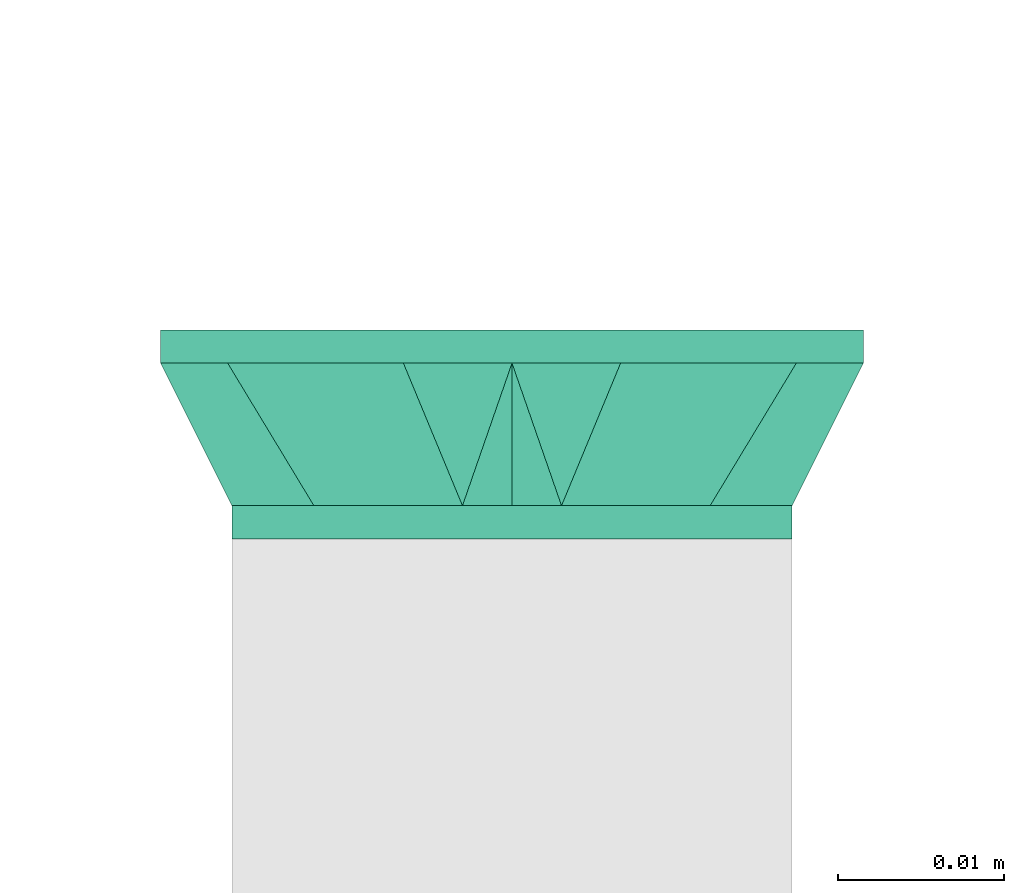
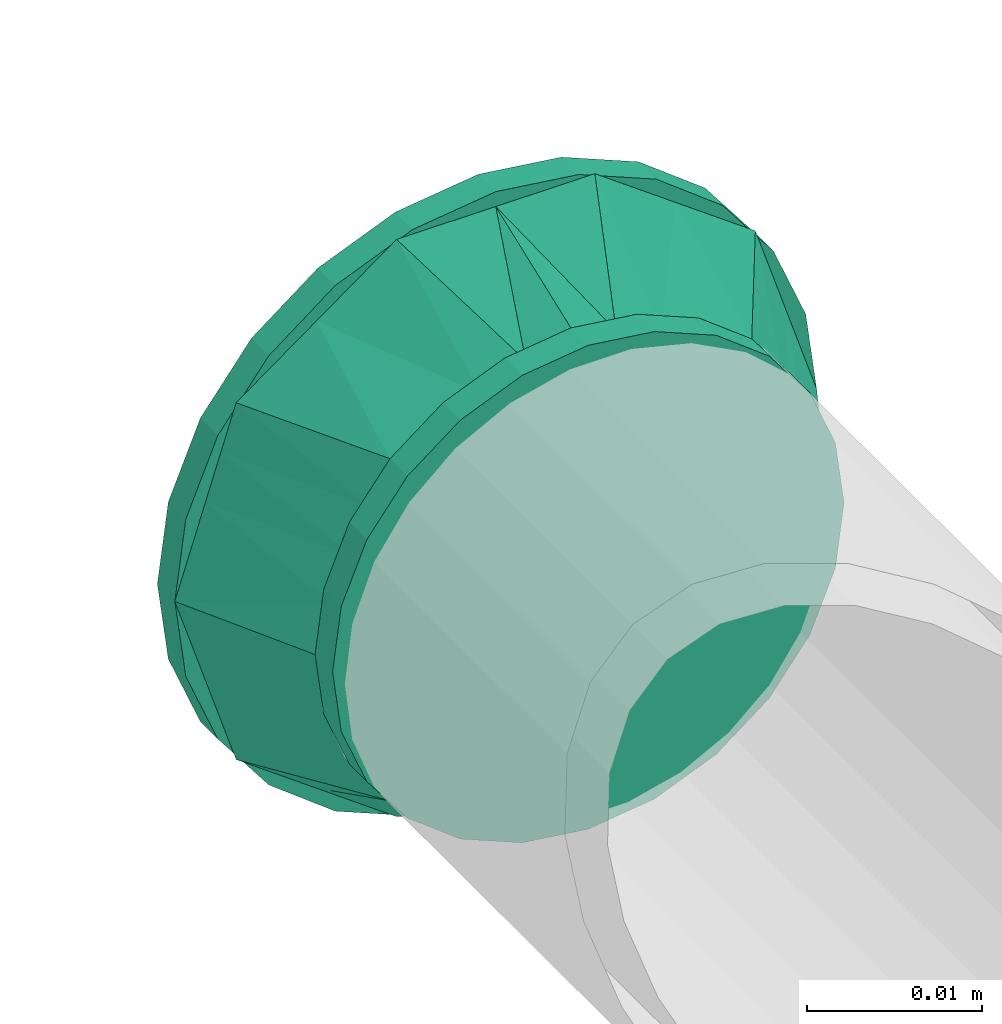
# One storey, part 32 of 32: 1 flow fitting.
"""IFC2X3 building model written with IfcOpenShell, lengths in millimetres."""

from ifc_helpers import new_model, entity, si_unit, converted_unit, derived_unit, direction, frame, origin_with_axes, place, context, subcontext, project, spatial, open_shell, surface_model, source, transform, mapped, type_object, element, save


model = new_model("IFC2X3")

# Units and contexts
model_context = context("Model", 3, precision=0.01, world=frame((0.0, 4.29681676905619e-09, 0.0)), true_north=direction((4.01073788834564e-13, 1.0)))
plan_context = context("Plan", 3, precision=0.01, world=frame((0.0, 4.29681676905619e-09, 0.0)), true_north=direction((4.01073788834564e-13, 1.0)))
body_context = subcontext(model_context, "Body", "Model", "MODEL_VIEW")
ifc_project = project(units=[converted_unit("PLANEANGLEUNIT", "DEGREE", entity("IfcPositiveLengthMeasure", 0.0174532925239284), si_unit("PLANEANGLEUNIT", "RADIAN"), dimensions=[0, 0, 0, 0, 0, 0, 0]), si_unit("AREAUNIT", "SQUARE_METRE"), si_unit("LENGTHUNIT", "METRE", prefix="MILLI"), si_unit("MASSUNIT", "GRAM", prefix="KILO"), si_unit("POWERUNIT", "WATT"), si_unit("PRESSUREUNIT", "PASCAL", prefix="KILO"), si_unit("FORCEUNIT", "NEWTON", prefix="KILO"), si_unit("ELECTRICVOLTAGEUNIT", "VOLT"), si_unit("ELECTRICCURRENTUNIT", "AMPERE"), si_unit("THERMODYNAMICTEMPERATUREUNIT", "DEGREE_CELSIUS"), si_unit("TIMEUNIT", "SECOND"), si_unit("VOLUMEUNIT", "CUBIC_METRE"), derived_unit("LINEARVELOCITYUNIT", [(si_unit("LENGTHUNIT", "METRE"), 1), (si_unit("TIMEUNIT", "SECOND"), -1)]), derived_unit("VOLUMETRICFLOWRATEUNIT", [(si_unit("VOLUMEUNIT", "CUBIC_METRE"), 1), (si_unit("TIMEUNIT", "SECOND"), -1)]), derived_unit("THERMALTRANSMITTANCEUNIT", [(si_unit("POWERUNIT", "WATT"), 1), (si_unit("THERMODYNAMICTEMPERATUREUNIT", "KELVIN"), -1), (si_unit("AREAUNIT", "SQUARE_METRE"), -1)]), derived_unit("SOUNDPRESSUREUNIT", [(si_unit("PRESSUREUNIT", "PASCAL"), 1)])], contexts=[model_context, plan_context])

# Site, building, storey
site_placement = place(None, frame((0.0, -4.29681676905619e-09, 0.0), z_axis=(0.0, 0.0, 1.0), x_axis=(1.0, 0.0, 0.0)))
site = spatial("IfcSite", under=ifc_project, at=site_placement, CompositionType="ELEMENT")
building_placement = place(site_placement, frame((0.0, 4.29681676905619e-09, 0.0), z_axis=(0.0, 0.0, 1.0), x_axis=(1.0, 0.0, 0.0)))
building = spatial("IfcBuilding", under=site, at=building_placement, Name="mc-building", CompositionType="ELEMENT")
storey_placement = place(building_placement, frame((0.0, 0.0, 205200.0), z_axis=(0.0, 0.0, 1.0), x_axis=(1.0, 0.0, 0.0)))
storey = spatial("IfcBuildingStorey", under=building, at=storey_placement, Name="Nivå D + 1,2 m", CompositionType="ELEMENT", Elevation=205200.0)

# Flow fitting
pipe_fitting_type = type_object("IfcPipeFittingType", Name="magi_pipe_fe_reducer_centric_short_001", PredefinedType="TRANSITION")
shared_shape = source(origin_with_axes(), body_context, "Body", "SurfaceModel", [
    surface_model("IfcShellBasedSurfaceModel", [(-2.0, 5.48696, -20.47763), (-2.0, 0.0, -21.2), (-2.0, 10.6, -18.35974), (-2.0, -10.6, -18.35974), (-2.0, -5.48696, -20.47763), (8.6, 11.9501, -11.9501), (8.6, 16.9, 0.0), (8.6, 0.0, -16.9), (8.6, -11.9501, -11.9501), (8.6, -11.9501, 11.9501), (8.6, -16.9, 0.0), (0.0, 17.15116, 12.46105), (0.0, 6.55116, -20.1624), (0.0, -21.2, 0.0), (0.0, -6.55116, -20.1624), (0.0, -17.15116, -12.46105), (8.6, -13.18758, -8.96258), (0.0, 0.0, -20.1624), (8.6, -2.98753, -15.66253), (0.0, -11.85116, -16.31172), (8.6, 5.97505, -14.42505), (8.6, 2.98753, -15.66253), (8.6, -5.97505, -14.42505), (8.6, 8.96258, -13.18758), (0.0, 11.85116, -16.31172), (8.6, -8.96258, -13.18758), (8.6, 11.9501, 11.9501), (8.6, 13.18758, 8.96258), (0.0, 0.0, 20.1624), (8.6, 2.98753, 15.66253), (0.0, 6.55116, 20.1624), (0.0, 11.85116, 16.31172), (0.0, -6.55116, 20.1624), (8.6, -5.97505, 14.42505), (8.6, -2.98753, 15.66253), (8.6, 5.97505, 14.42505), (8.6, -8.96258, 13.18758), (0.0, -11.85116, 16.31172), (8.6, 8.96258, 13.18758), (10.6, -11.9501, -11.9501), (10.6, -8.45, -14.63583), (10.6, -4.37404, -16.32415), (10.6, 8.45, -14.63583), (10.6, 16.9, 0.0), (10.6, -14.63583, -8.45), (10.6, -16.32415, -4.37404), (10.6, -4.37404, 16.32415), (10.6, 4.37404, -16.32415), (10.6, 0.0, -16.9), (10.6, 14.63583, -8.45), (10.6, 16.32415, -4.37404), (10.6, 11.9501, -11.9501), (10.6, -16.32415, 4.37404), (10.6, -16.9, 0.0), (10.6, -11.9501, 11.9501), (10.6, -14.63583, 8.45), (10.6, -8.45, 14.63583), (10.6, 0.0, 16.9), (10.6, 16.32415, 4.37404), (10.6, 14.63583, 8.45), (10.6, 11.9501, 11.9501), (10.6, 8.45, 14.63583), (10.6, 4.37404, 16.32415), (8.6, 0.0, 16.9), (8.6, 14.63583, 8.45), (8.6, -4.37404, 16.32415), (8.6, -8.45, 14.63583), (8.6, -16.32415, 4.37404), (8.6, -14.63583, 8.45), (8.6, 8.45, 14.63583), (8.6, 4.37404, 16.32415), (8.6, 16.32415, 4.37404), (8.6, 16.32415, -4.37404), (8.6, 8.45, -14.63583), (8.6, -16.32415, -4.37404), (8.6, -14.63583, -8.45), (8.6, -4.37404, -16.32415), (8.6, -8.45, -14.63583), (8.6, 14.63583, -8.45), (8.6, 4.37404, -16.32415), (-2.0, -10.6, 18.35974), (-2.0, -5.48696, 20.47763), (-2.0, 0.0, 21.2), (-2.0, -14.99066, 14.99066), (-2.0, -20.47763, 5.48696), (-2.0, -18.35974, 10.6), (-2.0, 14.99066, -14.99066), (-2.0, 21.2, 0.0), (-2.0, 10.6, 18.35974), (-2.0, 14.99066, 14.99066), (-2.0, 5.48696, 20.47763), (-2.0, 20.47763, 5.48696), (-2.0, 18.35974, 10.6), (-2.0, -20.47763, -5.48696), (-2.0, -18.35974, -10.6), (-2.0, -14.99066, -14.99066), (-2.0, 20.47763, -5.48696), (-2.0, 18.35974, -10.6), (-2.0, -21.2, 0.0), (0.0, -5.48696, -20.47763), (0.0, 0.0, -21.2), (0.0, -10.6, -18.35974), (0.0, -14.99066, -14.99066), (0.0, -20.47763, -5.48696), (0.0, 21.2, 0.0), (0.0, -18.35974, -10.6), (0.0, 14.99066, -14.99066), (0.0, 5.48696, -20.47763), (0.0, 10.6, -18.35974), (0.0, 20.47763, -5.48696), (0.0, 18.35974, -10.6), (0.0, -14.99066, 14.99066), (0.0, -18.35974, 10.6), (0.0, -20.47763, 5.48696), (0.0, 0.0, 21.2), (0.0, -5.48696, 20.47763), (0.0, -10.6, 18.35974), (0.0, 14.99066, 14.99066), (0.0, 20.47763, 5.48696), (0.0, 18.35974, 10.6), (0.0, 10.6, 18.35974), (0.0, 5.48696, 20.47763), (0.0, -17.15116, 12.46105), (0.0, 17.15116, -12.46105), (8.6, 13.18758, -8.96258), (0.0, 18.16337, -9.34579), (0.0, 19.17558, -6.23052), (8.6, 14.42505, -5.97505), (8.6, -14.42505, -5.97505), (0.0, -19.17558, -6.23052), (8.6, -15.66253, -2.98753), (8.6, 15.66253, -2.98753), (8.6, -13.18758, 8.96258), (0.0, -18.16337, 9.34579), (0.0, -19.17558, 6.23052), (8.6, -14.42505, 5.97505), (8.6, 14.42505, 5.97505), (0.0, 19.17558, 6.23052), (8.6, 15.66253, 2.98753), (8.6, -15.66253, 2.98753)], [open_shell([[[0, 1, 2]], [[3, 1, 4]], [[5, 6, 7]], [[8, 9, 10]], [[11, 12, 13]], [[13, 14, 15]], [[13, 12, 14]], [[15, 8, 16]], [[17, 18, 14]], [[8, 15, 19]], [[12, 20, 21]], [[18, 22, 14]], [[12, 21, 17]], [[23, 20, 24]], [[25, 8, 19]], [[24, 5, 23]], [[11, 26, 27]], [[28, 29, 30]], [[26, 11, 31]], [[32, 33, 34]], [[29, 35, 30]], [[32, 34, 28]], [[36, 33, 37]], [[38, 26, 31]], [[37, 9, 36]], [[39, 40, 41]], [[39, 41, 42]], [[42, 43, 39]], [[44, 39, 45]], [[39, 46, 45]], [[47, 42, 48]], [[42, 41, 48]], [[49, 50, 51]], [[42, 51, 50]], [[50, 43, 42]], [[52, 53, 45]], [[54, 55, 52]], [[46, 54, 52]], [[39, 43, 46]], [[56, 54, 46]], [[57, 46, 43]], [[58, 59, 57]], [[57, 43, 58]], [[60, 61, 59]], [[61, 57, 59]], [[62, 57, 61]], [[52, 45, 46]], [[63, 64, 65]], [[66, 65, 67]], [[67, 68, 9]], [[66, 67, 9]], [[67, 65, 64]], [[26, 64, 69]], [[63, 70, 69]], [[69, 64, 63]], [[67, 64, 71]], [[6, 72, 71]], [[73, 67, 71]], [[8, 74, 67]], [[75, 74, 8]], [[76, 77, 8]], [[8, 67, 73]], [[8, 73, 76]], [[78, 5, 72]], [[73, 72, 5]], [[79, 7, 73]], [[73, 71, 72]], [[73, 7, 76]], [[10, 67, 74]], [[6, 50, 72]], [[72, 49, 78]], [[73, 5, 42]], [[51, 5, 78]], [[79, 73, 47]], [[50, 49, 72]], [[6, 43, 50]], [[73, 42, 47]], [[42, 5, 51]], [[78, 49, 51]], [[79, 47, 48]], [[48, 7, 79]], [[7, 41, 76]], [[76, 40, 77]], [[75, 8, 44]], [[39, 8, 77]], [[74, 75, 45]], [[40, 39, 77]], [[76, 41, 40]], [[74, 45, 53]], [[45, 75, 44]], [[8, 39, 44]], [[74, 53, 10]], [[48, 41, 7]], [[10, 52, 67]], [[67, 55, 68]], [[66, 9, 56]], [[54, 9, 68]], [[65, 66, 46]], [[52, 55, 67]], [[10, 53, 52]], [[66, 56, 46]], [[56, 9, 54]], [[68, 55, 54]], [[65, 46, 57]], [[57, 63, 65]], [[63, 62, 70]], [[70, 61, 69]], [[64, 26, 59]], [[60, 26, 69]], [[71, 64, 58]], [[61, 60, 69]], [[70, 62, 61]], [[71, 58, 43]], [[58, 64, 59]], [[26, 60, 59]], [[71, 43, 6]], [[57, 62, 63]], [[80, 81, 82]], [[83, 80, 82]], [[84, 85, 83]], [[82, 84, 83]], [[86, 82, 87]], [[88, 89, 90]], [[89, 82, 90]], [[91, 87, 92]], [[82, 89, 92]], [[82, 92, 87]], [[86, 84, 82]], [[3, 93, 84]], [[94, 93, 95]], [[3, 84, 86]], [[95, 93, 3]], [[96, 97, 87]], [[87, 97, 86]], [[3, 86, 2]], [[3, 2, 1]], [[98, 84, 93]], [[99, 100, 101]], [[102, 101, 103]], [[104, 103, 101]], [[105, 102, 103]], [[101, 106, 104]], [[107, 108, 100]], [[108, 101, 100]], [[109, 104, 110]], [[106, 101, 108]], [[104, 106, 110]], [[103, 104, 13]], [[111, 112, 113]], [[114, 111, 113]], [[114, 115, 116]], [[111, 114, 116]], [[117, 114, 113]], [[118, 119, 104]], [[117, 104, 119]], [[120, 121, 117]], [[113, 104, 117]], [[117, 121, 114]], [[13, 104, 113]], [[87, 109, 96]], [[96, 110, 97]], [[2, 86, 108]], [[106, 86, 97]], [[0, 2, 107]], [[109, 110, 96]], [[87, 104, 109]], [[2, 108, 107]], [[108, 86, 106]], [[97, 110, 106]], [[0, 107, 100]], [[100, 1, 0]], [[1, 99, 4]], [[4, 101, 3]], [[94, 95, 105]], [[102, 95, 3]], [[93, 94, 103]], [[101, 102, 3]], [[4, 99, 101]], [[93, 103, 13]], [[103, 94, 105]], [[95, 102, 105]], [[93, 13, 98]], [[100, 99, 1]], [[98, 113, 84]], [[84, 112, 85]], [[80, 83, 116]], [[111, 83, 85]], [[81, 80, 115]], [[113, 112, 84]], [[98, 13, 113]], [[80, 116, 115]], [[116, 83, 111]], [[85, 112, 111]], [[81, 115, 114]], [[114, 82, 81]], [[82, 121, 90]], [[90, 120, 88]], [[92, 89, 119]], [[117, 89, 88]], [[91, 92, 118]], [[120, 117, 88]], [[90, 121, 120]], [[91, 118, 104]], [[118, 92, 119]], [[89, 117, 119]], [[91, 104, 87]], [[114, 121, 82]], [[9, 6, 26]], [[26, 63, 9]], [[9, 8, 6]], [[7, 6, 8]], [[11, 13, 122]], [[30, 11, 32]], [[122, 32, 11]], [[11, 104, 123]], [[123, 12, 11]], [[124, 5, 123]], [[125, 126, 127]], [[22, 25, 19]], [[19, 14, 22]], [[7, 18, 17]], [[16, 128, 15]], [[129, 130, 13]], [[6, 131, 104]], [[24, 123, 5]], [[131, 126, 104]], [[129, 15, 128]], [[7, 17, 21]], [[10, 13, 130]], [[126, 131, 127]], [[125, 124, 123]], [[125, 127, 124]], [[12, 24, 20]], [[129, 128, 130]], [[132, 9, 122]], [[133, 134, 135]], [[35, 38, 31]], [[31, 30, 35]], [[63, 29, 28]], [[27, 136, 11]], [[137, 138, 104]], [[10, 139, 13]], [[37, 122, 9]], [[139, 134, 13]], [[137, 11, 136]], [[63, 28, 34]], [[6, 104, 138]], [[134, 139, 135]], [[133, 132, 122]], [[133, 135, 132]], [[32, 37, 33]], [[137, 136, 138]]])]),
])
flow_fitting_placement = place(storey_placement, frame((343492.5, 467494.63146, 4444.43145999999), z_axis=(0.0, 0.0, 1.0), x_axis=(0.0, -1.0, 0.0)))
element("IfcFlowFitting", 1, at=flow_fitting_placement, inside=storey, type_object=pipe_fitting_type, Name="magi_pipe_fe_reducer_centric_short_001", context=body_context, shape_type="MappedRepresentation", body=[
    mapped(shared_shape, transform((0.0, 0.0, 0.0), scale=1.0)),
])

save(model, "model.ifc")
